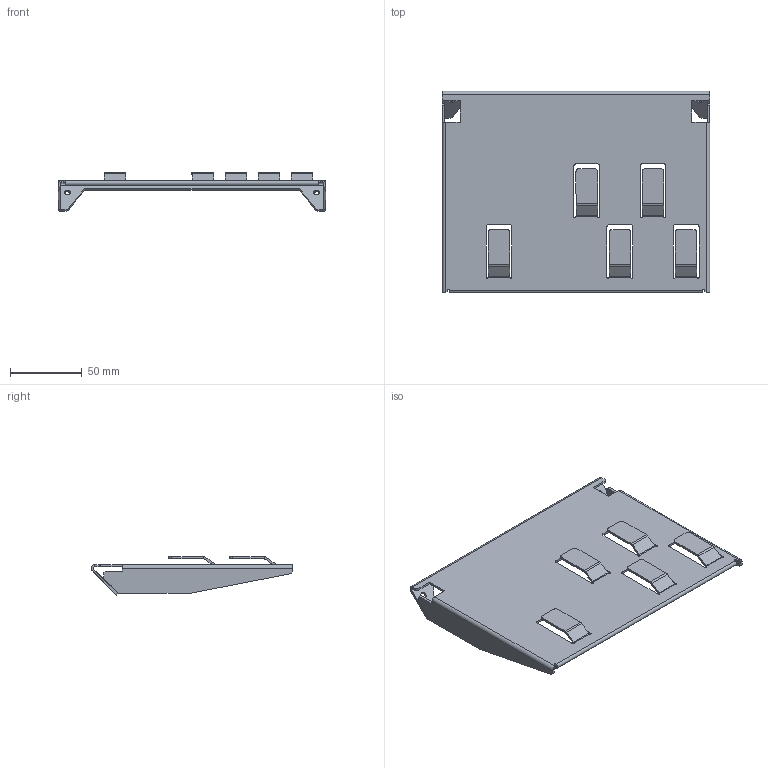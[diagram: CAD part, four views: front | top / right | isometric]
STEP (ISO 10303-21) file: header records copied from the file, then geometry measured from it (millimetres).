
FILE_DESCRIPTION(/* description */ (''),/* implementation_level */ '2;1');
FILE_NAME(/* name */ 'C:\_Vault-Workspace\CAD-Daten\Antriebstechnik\Doku\AX2090_SB50\121719_PT3056_AX2090-SB50-0002_Schirmblech_für_AX5190-91.stp',/* time_stamp */ '2022-10-04T10:55:47+02:00',/* author */ ('JoernGe'),/* organization */ (''),/* preprocessor_version */ 'ST-DEVELOPER v18.1',/* originating_system */ 'Autodesk Inventor 2022',/* authorisation */ '');
FILE_SCHEMA (('AUTOMOTIVE_DESIGN { 1 0 10303 214 3 1 1 }'));
Length unit declared in the file: millimetre
Products named in the file (1): 121719_PT3056_AX2090-SB50-0002_Schirmblech_für_AX5190-91
Bounding box: 186 x 140.14 x 26.7 mm (x, y, z)
Volume: 46073.3 mm3; surface area: 64109.2 mm2
Topology: 1 solids, 1 shells, 206 faces, 504 edges, 300 vertices
Faces by surface type: plane 144, cylinder 62
Full cylindrical faces by diameter (mm): 4.2 x2
Entity records: 5988 total; most frequent: DIRECTION 1042, CARTESIAN_POINT 1011, ORIENTED_EDGE 1008, EDGE_CURVE 504, LINE 380, VECTOR 380, AXIS2_PLACEMENT_3D 331, VERTEX_POINT 300
